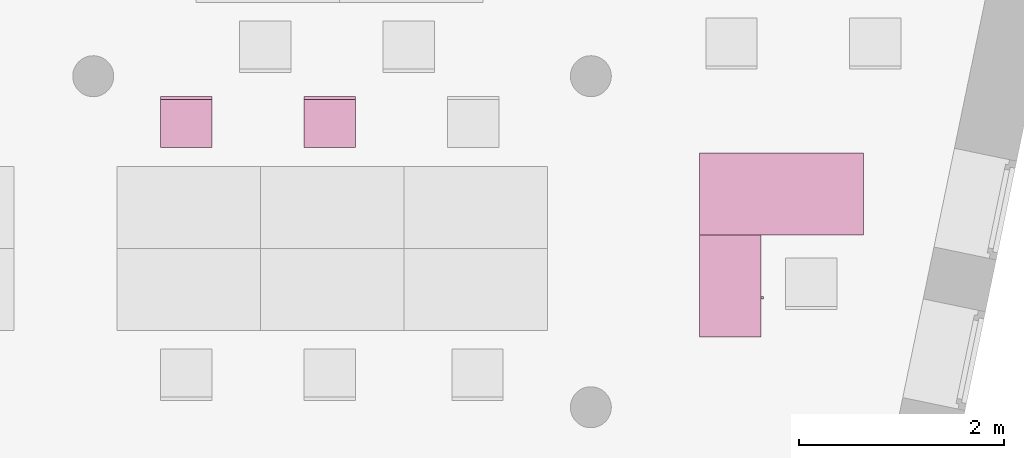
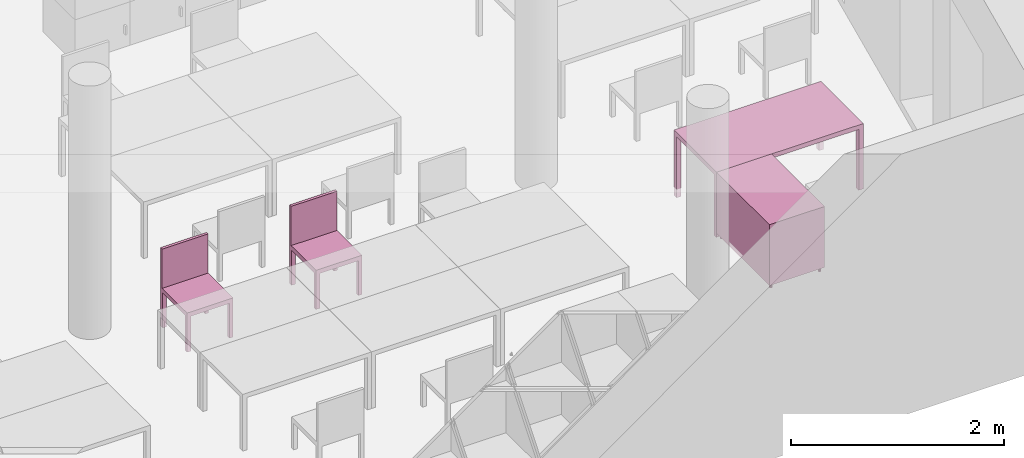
"""IFC4 building model written with IfcOpenShell, lengths in metres."""

import ifcopenshell
import ifcopenshell.guid

model = None  # the IFC model being written
_history = None  # IfcOwnerHistory: only IFC2X3 demands one
_inside = {}  # id of a spatial element -> (the spatial element, [elements in it])
_under = {}  # id of a project, library or spatial element -> (it, [spatial elements below it])
_declared = {}  # id of a project -> (the project, [libraries it declares])
_typed = {}  # id of a type object -> (the type object, [elements of that type])
_made_of = {}  # id of a material, layer set ... -> (it, [elements and type objects made of it])


def new_model(schema):
    """Start an empty IFC model of exactly this schema.

    Asked for "IFC4X3", IfcOpenShell would pick the latest addendum, in which some entities
    have other attributes; the version numbers below select the first issue.
    IFC2X3 requires an IfcOwnerHistory on every rooted entity: one is made here for all.
    """
    global model, _history
    if schema == "IFC4X3":
        model = ifcopenshell.file(schema_version=(4, 3, 0, 0))
    else:
        model = ifcopenshell.file(schema=schema)
    _inside.clear()
    _under.clear()
    _declared.clear()
    _typed.clear()
    _made_of.clear()
    _history = None
    if model.schema == "IFC2X3":
        org = make("IfcOrganization", Name="unknown")
        user = make(
            "IfcPersonAndOrganization",
            ThePerson=make("IfcPerson", FamilyName="unknown"),
            TheOrganization=org,
        )
        app = make(
            "IfcApplication",
            ApplicationDeveloper=org,
            Version="unknown",
            ApplicationFullName="unknown",
            ApplicationIdentifier="unknown",
        )
        _history = make(
            "IfcOwnerHistory",
            OwningUser=user,
            OwningApplication=app,
            ChangeAction="ADDED",
            CreationDate=0,
        )
    return model


def make(cls, **values):
    """One entity of the class cls with the attributes given. An attribute that is None is left unset."""
    return model.create_entity(
        cls, **{name: value for name, value in values.items() if value is not None}
    )


def entity(cls, *values):
    """Any entity or typed value of the class cls, its attributes in the order of the schema. None: left unset."""
    e = model.create_entity(cls)
    for i, value in enumerate(values):
        if value is not None:
            e[i] = value
    return e


def rooted(cls, **values):
    """An entity with a GlobalId (a new one), such as an element, a storey or a relation."""
    return make(cls, GlobalId=ifcopenshell.guid.new(), OwnerHistory=_history, **values)


def si_unit(unit_type, name, prefix=None):
    """IfcSIUnit, for example si_unit("LENGTHUNIT", "METRE", prefix="MILLI")."""
    return make("IfcSIUnit", UnitType=unit_type, Prefix=prefix, Name=name)


def converted_unit(unit_type, name, factor, base, dimensions=None, offset=None):
    """IfcConversionBasedUnit, such as the inch: factor (a typed value) times the base unit."""
    return make(
        "IfcConversionBasedUnit"
        if offset is None
        else "IfcConversionBasedUnitWithOffset",
        ConversionOffset=offset,
        Dimensions=None
        if dimensions is None
        else entity("IfcDimensionalExponents", *dimensions),
        UnitType=unit_type,
        Name=name,
        ConversionFactor=make(
            "IfcMeasureWithUnit", ValueComponent=factor, UnitComponent=base
        ),
    )


def derived_unit(unit_type, elements):
    """IfcDerivedUnit: a product of units, each with its exponent."""
    return make(
        "IfcDerivedUnit",
        Elements=[
            make("IfcDerivedUnitElement", Unit=unit, Exponent=power)
            for unit, power in elements
        ],
        UnitType=unit_type,
    )


def assignment(units):
    """IfcUnitAssignment: the units of a project."""
    return None if units is None else make("IfcUnitAssignment", Units=units)


def point(xyz):
    """IfcCartesianPoint."""
    return None if xyz is None else make("IfcCartesianPoint", Coordinates=xyz)


def direction(xyz):
    """IfcDirection."""
    return None if xyz is None else make("IfcDirection", DirectionRatios=xyz)


def frame(location, z_axis=None, x_axis=None):
    """IfcAxis2Placement3D, a coordinate frame: its origin and axes. An axis left out is left unset."""
    return make(
        "IfcAxis2Placement3D",
        Location=point(location),
        Axis=direction(z_axis),
        RefDirection=direction(x_axis),
    )


def origin():
    """The frame at (0, 0, 0) with its axes left unset."""
    return frame((0.0, 0.0, 0.0))


def place(relative_to, where):
    """IfcLocalPlacement: puts the frame where relative to a parent placement (None: the world)."""
    return make(
        "IfcLocalPlacement", PlacementRelTo=relative_to, RelativePlacement=where
    )


def context(
    kind, dimensions, precision=None, world=None, true_north=None, identifier=None
):
    """IfcGeometricRepresentationContext, for example the 3D "Model" context."""
    return make(
        "IfcGeometricRepresentationContext",
        ContextIdentifier=identifier,
        ContextType=kind,
        CoordinateSpaceDimension=dimensions,
        Precision=precision,
        WorldCoordinateSystem=world,
        TrueNorth=true_north,
    )


def subcontext(parent, identifier, kind, view, scale=None):
    """IfcGeometricRepresentationSubContext, for example "Body" below "Model"."""
    return make(
        "IfcGeometricRepresentationSubContext",
        ContextIdentifier=identifier,
        ContextType=kind,
        ParentContext=parent,
        TargetScale=scale,
        TargetView=view,
    )


def project(units=None, contexts=None):
    """IfcProject with its units and contexts."""
    return rooted(
        "IfcProject",
        Name="project",
        RepresentationContexts=contexts,
        UnitsInContext=assignment(units),
    )


def spatial(cls, under=None, at=None, **own):
    """A site, building, storey or space (cls), placed at a placement, below another one or the project."""
    s = rooted(cls, ObjectPlacement=at, **own)
    if under is not None:
        _under.setdefault(under.id(), (under, []))[1].append(s)
    return s


def faces_of(points, faces, orient=None, outer=None):
    """IfcFace entities. A face is a list of loops; a loop is a list of indices into points, from 0.

    orient and outer hold one flag for each loop. By default every Orientation is true, the
    first loop of a face is its IfcFaceOuterBound and the others are IfcFaceBound.
    """
    made = []
    for i, loops in enumerate(faces):
        bounds = []
        for j, loop in enumerate(loops):
            is_outer = j == 0 if outer is None else outer[i][j]
            bounds.append(
                make(
                    "IfcFaceOuterBound" if is_outer else "IfcFaceBound",
                    Bound=make("IfcPolyLoop", Polygon=[points[k] for k in loop]),
                    Orientation=True if orient is None else orient[i][j],
                )
            )
        made.append(make("IfcFace", Bounds=bounds))
    return made


def faceted_brep(points, faces, orient=None, outer=None, voids=None):
    """IfcFacetedBrep: a solid bounded by flat faces; with voids (closed shells), ...WithVoids."""
    shared = [point(p) for p in points]
    hull = make("IfcClosedShell", CfsFaces=faces_of(shared, faces, orient, outer))
    if voids is None:
        return make("IfcFacetedBrep", Outer=hull)
    return make(
        "IfcFacetedBrepWithVoids",
        Outer=hull,
        Voids=[
            make(cls, CfsFaces=faces_of(shared, fs, o, b)) for cls, fs, o, b in voids
        ],
    )


def shape(context_of_items, identifier, shape_type, items):
    """IfcShapeRepresentation: the items that make up one representation, for example the "Body"."""
    return make(
        "IfcShapeRepresentation",
        ContextOfItems=context_of_items,
        RepresentationIdentifier=identifier,
        RepresentationType=shape_type,
        Items=items,
    )


def made_of(thing, what):
    """Note that an element or type object is made of a material, layer set ...; save() writes the relation."""
    if what is not None:
        _made_of.setdefault(what.id(), (what, []))[1].append(thing)
    return thing


def element(
    cls,
    number,
    at=None,
    inside=None,
    cuts=None,
    type_object=None,
    material=None,
    context=None,
    identifier="Body",
    shape_type=None,
    held_by="IfcProductDefinitionShape",
    body=None,
    shapes=None,
    **own,
):
    """One element of the class cls, such as IfcWall. Its Tag is "e" and its number.

    at: its placement. inside: the storey or other place that contains it. cuts: it is an
    opening in that element (IfcRelVoidsElement). A single representation is given by context,
    identifier, shape_type and body (its items); several are given by shapes. held_by: the class
    of the entity that holds the representations. save() writes the other relations.
    """
    e = rooted(cls, Tag="e%d" % number, ObjectPlacement=at, **own)
    if body is not None:
        shapes = [shape(context, identifier, shape_type, body)]
    if shapes is not None:
        e.Representation = make(held_by, Representations=shapes)
    if inside is not None:
        _inside.setdefault(inside.id(), (inside, []))[1].append(e)
    if cuts is not None:
        rooted(
            "IfcRelVoidsElement", RelatingBuildingElement=cuts, RelatedOpeningElement=e
        )
    if type_object is not None:
        _typed.setdefault(type_object.id(), (type_object, []))[1].append(e)
    return made_of(e, material)


def aggregate(whole, parts):
    """IfcRelAggregates: a whole, such as a stair, and the parts it consists of."""
    return rooted("IfcRelAggregates", RelatingObject=whole, RelatedObjects=parts)


def save(model, path):
    """Write the relations noted so far, then the file.

    IfcRelAggregates (storeys below a building ...), IfcRelContainedInSpatialStructure (elements
    in a storey), IfcRelDefinesByType, IfcRelAssociatesMaterial and IfcRelDeclares: one each for
    every whole, place, type object, material and project.
    """
    for whole, parts in _under.values():
        aggregate(whole, parts)
    for where, things in _inside.values():
        rooted(
            "IfcRelContainedInSpatialStructure",
            RelatedElements=things,
            RelatingStructure=where,
        )
    for kind, things in _typed.values():
        rooted("IfcRelDefinesByType", RelatedObjects=things, RelatingType=kind)
    for what, things in _made_of.values():
        rooted("IfcRelAssociatesMaterial", RelatedObjects=things, RelatingMaterial=what)
    for by, libraries in _declared.values():
        rooted("IfcRelDeclares", RelatingContext=by, RelatedDefinitions=libraries)
    model.write(path)


model = new_model("IFC4")

# Units and contexts
model_context = context("Model", 3, precision=1e-05, world=origin())
body_context = subcontext(model_context, "Body", "Model", "MODEL_VIEW")
ifc_project = project(units=[si_unit("LENGTHUNIT", "METRE"), si_unit("AREAUNIT", "SQUARE_METRE"), si_unit("VOLUMEUNIT", "CUBIC_METRE"), si_unit("MASSUNIT", "GRAM", prefix="KILO"), converted_unit("PLANEANGLEUNIT", "DEGREE", entity("IfcPlaneAngleMeasure", 0.0174532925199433), si_unit("PLANEANGLEUNIT", "RADIAN"), dimensions=[0, 0, 0, 0, 0, 0, 0]), derived_unit("THERMALTRANSMITTANCEUNIT", [(si_unit("POWERUNIT", "WATT"), 1), (si_unit("THERMODYNAMICTEMPERATUREUNIT", "KELVIN"), -1), (si_unit("LENGTHUNIT", "METRE"), -2)]), derived_unit("VOLUMETRICFLOWRATEUNIT", [(si_unit("LENGTHUNIT", "METRE"), 3), (converted_unit("TIMEUNIT", "hour", entity("IfcTimeMeasure", 3600.0), si_unit("TIMEUNIT", "SECOND"), dimensions=[0, 0, 1, 0, 0, 0, 0]), -1), (si_unit("LENGTHUNIT", "METRE"), -1)])], contexts=[model_context])

# Building, storeys
building_placement = place(None, origin())
building = spatial("IfcBuilding", under=ifc_project, at=building_placement, Name="HABITATGE PLURIFAMILIAR", CompositionType="ELEMENT")
storey_1_placement = place(building_placement, frame((0.0, 0.0, 15.28)))
storey_1 = spatial("IfcBuildingStorey", under=building, at=storey_1_placement, Name="PLANTA QUARTA", CompositionType="ELEMENT", Elevation=15.28)
storey_2_placement = place(storey_1_placement, frame((0.0, 0.0, 12.27)))
storey_2 = spatial("IfcBuildingStorey", under=storey_1, at=storey_2_placement, Name="NOU", CompositionType="PARTIAL")

# Furniture
furniture_1_placement = place(storey_2_placement, frame((422.05439455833, 16.2495676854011, -12.3699999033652)))
element("IfcFurniture", 1, at=furniture_1_placement, inside=storey_2, Name="Taula 160X80_P4", context=body_context, shape_type="Brep", body=[
    faceted_brep([(1.546945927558, 0.750069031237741, 0.0), (1.596945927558, 0.750069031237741, 0.0), (1.596945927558, 0.800069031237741, 0.0), (1.546945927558, 0.800069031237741, 0.0), (1.546945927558, 0.800069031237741, 0.7), (1.596945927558, 0.800069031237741, 0.7), (1.596945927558, 0.750069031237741, 0.7), (1.546945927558, 0.750069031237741, 0.7)], [[[0, 1, 2, 3]], [[4, 5, 6, 7]], [[3, 4, 7, 0]], [[2, 5, 4, 3]], [[1, 6, 5, 2]], [[0, 7, 6, 1]]], orient=[[False], [False], [False], [False], [False], [False]]),
    faceted_brep([(1.546945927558, 0.0, 0.0), (1.596945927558, 0.0, 0.0), (1.596945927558, 0.05, 0.0), (1.546945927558, 0.05, 0.0), (1.546945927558, 0.05, 0.7), (1.596945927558, 0.05, 0.7), (1.596945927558, 0.0, 0.7), (1.546945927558, 0.0, 0.7)], [[[0, 1, 2, 3]], [[4, 5, 6, 7]], [[3, 4, 7, 0]], [[2, 5, 4, 3]], [[1, 6, 5, 2]], [[0, 7, 6, 1]]], orient=[[False], [False], [False], [False], [False], [False]]),
    faceted_brep([(0.0, 0.0, 0.7), (1.596945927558, 0.0, 0.7), (1.596945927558, 0.800069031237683, 0.7), (0.0, 0.800069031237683, 0.7), (0.0, 0.800069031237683, 0.75), (1.596945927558, 0.800069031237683, 0.75), (1.596945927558, 0.0, 0.75), (0.0, 0.0, 0.75)], [[[0, 1, 2, 3]], [[4, 5, 6, 7]], [[3, 4, 7, 0]], [[2, 5, 4, 3]], [[1, 6, 5, 2]], [[0, 7, 6, 1]]], orient=[[False], [False], [False], [False], [False], [False]]),
    faceted_brep([(0.0, 0.750069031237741, 0.0), (0.05, 0.750069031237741, 0.0), (0.05, 0.800069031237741, 0.0), (0.0, 0.800069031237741, 0.0), (0.0, 0.800069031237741, 0.7), (0.05, 0.800069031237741, 0.7), (0.05, 0.750069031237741, 0.7), (0.0, 0.750069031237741, 0.7)], [[[0, 1, 2, 3]], [[4, 5, 6, 7]], [[3, 4, 7, 0]], [[2, 5, 4, 3]], [[1, 6, 5, 2]], [[0, 7, 6, 1]]], orient=[[False], [False], [False], [False], [False], [False]]),
    faceted_brep([(0.0, 0.0, 0.0), (0.05, 0.0, 0.0), (0.05, 0.05, 0.0), (0.0, 0.05, 0.0), (0.0, 0.05, 0.7), (0.05, 0.05, 0.7), (0.05, 0.0, 0.7), (0.0, 0.0, 0.7)], [[[0, 1, 2, 3]], [[4, 5, 6, 7]], [[3, 4, 7, 0]], [[2, 5, 4, 3]], [[1, 6, 5, 2]], [[0, 7, 6, 1]]], orient=[[False], [False], [False], [False], [False], [False]]),
])
furniture_2_placement = place(storey_2_placement, frame((422.05439455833, 15.2535937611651, -12.3699999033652)))
element("IfcFurniture", 2, at=furniture_2_placement, inside=storey_2, Name="Taula 100X60_P4", context=body_context, shape_type="Brep", body=[
    faceted_brep([(0.0, 1.00000000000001, 0.05), (0.6, 1.00000000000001, 0.05), (0.6, 1.00000000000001, 0.07), (0.0, 1.00000000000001, 0.07), (0.6, 0.0, 0.05), (0.6, 0.0, 0.07), (0.0, 0.0, 0.05), (0.0, 0.0, 0.07)], [[[0, 1, 2, 3]], [[1, 4, 5, 2]], [[4, 6, 7, 5]], [[6, 0, 3, 7]], [[0, 6, 4, 1]], [[3, 2, 5, 7]]], orient=[[False], [False], [False], [False], [False], [False]]),
    faceted_brep([(0.58, 1.00000000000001, 0.35), (0.0, 1.00000000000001, 0.35), (0.0, 0.0, 0.35), (0.58, 0.0, 0.35), (0.0, 1.00000000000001, 0.37), (0.58, 1.00000000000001, 0.37), (0.58, 0.0, 0.37), (0.0, 0.0, 0.37)], [[[0, 1, 2, 3]], [[4, 5, 6, 7]], [[1, 0, 5, 4]], [[2, 1, 4, 7]], [[3, 2, 7, 6]], [[0, 3, 6, 5]]], orient=[[False], [False], [False], [False], [False], [False]]),
    faceted_brep([(0.58, 0.490000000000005, 0.75), (0.58, 0.490000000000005, 0.05), (0.6, 0.490000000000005, 0.05), (0.6, 0.490000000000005, 0.75), (0.58, 0.0, 0.05), (0.6, 0.0, 0.05), (0.58, 0.0, 0.75), (0.6, 0.0, 0.75)], [[[0, 1, 2, 3]], [[1, 4, 5, 2]], [[4, 6, 7, 5]], [[6, 0, 3, 7]], [[0, 6, 4, 1]], [[3, 2, 5, 7]]], orient=[[False], [False], [False], [False], [False], [False]]),
    faceted_brep([(0.0, 0.980000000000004, 0.75), (0.0, 0.980000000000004, 0.0499999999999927), (0.0, 1.0, 0.0499999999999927), (0.0, 1.0, 0.75), (0.6, 0.980000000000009, 0.05), (0.6, 1.00000000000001, 0.05), (0.6, 0.980000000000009, 0.75), (0.6, 1.00000000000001, 0.75)], [[[0, 1, 2, 3]], [[1, 4, 5, 2]], [[4, 6, 7, 5]], [[6, 0, 3, 7]], [[0, 6, 4, 1]], [[3, 2, 5, 7]]], orient=[[False], [False], [False], [False], [False], [False]]),
    faceted_brep([(0.0, 0.470000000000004, 0.75), (0.0, 0.470000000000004, 0.0499999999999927), (0.0, 0.490000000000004, 0.0499999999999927), (0.0, 0.490000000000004, 0.75), (0.6, 0.470000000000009, 0.05), (0.6, 0.490000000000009, 0.05), (0.6, 0.470000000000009, 0.75), (0.6, 0.490000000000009, 0.75)], [[[0, 1, 2, 3]], [[1, 4, 5, 2]], [[4, 6, 7, 5]], [[6, 0, 3, 7]], [[0, 6, 4, 1]], [[3, 2, 5, 7]]], orient=[[False], [False], [False], [False], [False], [False]]),
    faceted_brep([(0.0, 0.47, 0.750000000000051), (0.0, 0.47, 0.0499999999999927), (0.0, 0.490000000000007, 0.0499999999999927), (0.0, 0.490000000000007, 0.750000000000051), (0.579999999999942, 0.469999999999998, 0.0499999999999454), (0.579999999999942, 0.490000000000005, 0.0499999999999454), (0.58, 0.469999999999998, 0.750000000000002), (0.58, 0.490000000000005, 0.750000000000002)], [[[0, 1, 2, 3]], [[1, 4, 5, 2]], [[4, 6, 7, 5]], [[6, 0, 3, 7]], [[0, 6, 4, 1]], [[3, 2, 5, 7]]], orient=[[False], [False], [False], [False], [False], [False]]),
    faceted_brep([(0.0, 0.0, 0.75), (0.0, 0.0, 0.0499999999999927), (0.0, 0.0200000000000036, 0.0499999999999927), (0.0, 0.0200000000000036, 0.75), (0.6, 0.0, 0.05), (0.6, 0.0200000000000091, 0.05), (0.6, 0.0, 0.75), (0.6, 0.0200000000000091, 0.75)], [[[0, 1, 2, 3]], [[1, 4, 5, 2]], [[4, 6, 7, 5]], [[6, 0, 3, 7]], [[0, 6, 4, 1]], [[3, 2, 5, 7]]], orient=[[False], [False], [False], [False], [False], [False]]),
    faceted_brep([(0.0, 1.00000000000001, 0.73), (0.6, 1.00000000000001, 0.73), (0.6, 1.00000000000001, 0.75), (0.0, 1.00000000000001, 0.75), (0.6, 0.0, 0.73), (0.6, 0.0, 0.75), (0.0, 0.0, 0.73), (0.0, 0.0, 0.75)], [[[0, 1, 2, 3]], [[1, 4, 5, 2]], [[4, 6, 7, 5]], [[6, 0, 3, 7]], [[0, 6, 4, 1]], [[3, 2, 5, 7]]], orient=[[False], [False], [False], [False], [False], [False]]),
    faceted_brep([(0.0, 0.980000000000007, 0.75), (0.0, 0.980000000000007, 0.05), (0.02, 0.980000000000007, 0.05), (0.02, 0.980000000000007, 0.75), (0.0, 0.0, 0.05), (0.02, 0.0, 0.05), (0.0, 0.0, 0.75), (0.02, 0.0, 0.75)], [[[0, 1, 2, 3]], [[1, 4, 5, 2]], [[4, 6, 7, 5]], [[6, 0, 3, 7]], [[0, 6, 4, 1]], [[3, 2, 5, 7]]], orient=[[False], [False], [False], [False], [False], [False]]),
    faceted_brep([(0.6, 0.374420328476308, 0.35), (0.62, 0.374420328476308, 0.35), (0.62, 0.394420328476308, 0.35), (0.6, 0.394420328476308, 0.35), (0.6, 0.394420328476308, 0.45), (0.62, 0.394420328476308, 0.45), (0.62, 0.374420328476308, 0.45), (0.6, 0.374420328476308, 0.45)], [[[0, 1, 2, 3]], [[4, 5, 6, 7]], [[3, 4, 7, 0]], [[2, 5, 4, 3]], [[1, 6, 5, 2]], [[0, 7, 6, 1]]], orient=[[False], [False], [False], [False], [False], [False]]),
    faceted_brep([(0.0361788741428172, 0.950063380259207, 0.0), (0.038772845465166, 0.950290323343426, 0.0), (0.0412880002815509, 0.950964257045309, 0.0), (0.0436479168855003, 0.95206470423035, 0.0), (0.0457808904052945, 0.953558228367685, 0.0), (0.0476221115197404, 0.955399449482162, 0.0), (0.0491156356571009, 0.957532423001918, 0.0), (0.0502160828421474, 0.959892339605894, 0.0), (0.0508900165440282, 0.962407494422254, 0.0), (0.0511169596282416, 0.96500146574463, 0.0), (0.0508900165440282, 0.967595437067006, 0.0), (0.0502160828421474, 0.970110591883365, 0.0), (0.0491156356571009, 0.972470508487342, 0.0), (0.0476221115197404, 0.974603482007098, 0.0), (0.0457808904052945, 0.976444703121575, 0.0), (0.0436479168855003, 0.97793822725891, 0.0), (0.0412880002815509, 0.979038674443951, 0.0), (0.038772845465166, 0.979712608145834, 0.0), (0.0361788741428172, 0.979939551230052, 0.0), (0.0335849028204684, 0.979712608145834, 0.0), (0.0310697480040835, 0.979038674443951, 0.0), (0.0287098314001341, 0.97793822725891, 0.0), (0.02657685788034, 0.976444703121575, 0.0), (0.024735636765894, 0.974603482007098, 0.0), (0.0232421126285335, 0.972470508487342, 0.0), (0.022141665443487, 0.970110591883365, 0.0), (0.0214677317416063, 0.967595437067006, 0.0), (0.0212407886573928, 0.96500146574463, 0.0), (0.0214677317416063, 0.962407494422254, 0.0), (0.022141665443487, 0.959892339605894, 0.0), (0.0232421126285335, 0.957532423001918, 0.0), (0.024735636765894, 0.955399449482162, 0.0), (0.02657685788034, 0.953558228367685, 0.0), (0.0287098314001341, 0.95206470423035, 0.0), (0.0310697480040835, 0.950964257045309, 0.0), (0.0335849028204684, 0.950290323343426, 0.0), (0.0361788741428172, 0.950063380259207, 0.05), (0.0335849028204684, 0.950290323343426, 0.05), (0.0310697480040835, 0.950964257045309, 0.05), (0.0287098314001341, 0.95206470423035, 0.05), (0.02657685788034, 0.953558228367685, 0.05), (0.024735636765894, 0.955399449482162, 0.05), (0.0232421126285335, 0.957532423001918, 0.05), (0.022141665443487, 0.959892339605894, 0.05), (0.0214677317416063, 0.962407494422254, 0.05), (0.0212407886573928, 0.96500146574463, 0.05), (0.0214677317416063, 0.967595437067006, 0.05), (0.022141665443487, 0.970110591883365, 0.05), (0.0232421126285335, 0.972470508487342, 0.05), (0.024735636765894, 0.974603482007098, 0.05), (0.02657685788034, 0.976444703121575, 0.05), (0.0287098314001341, 0.97793822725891, 0.05), (0.0310697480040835, 0.979038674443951, 0.05), (0.0335849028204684, 0.979712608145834, 0.05), (0.0361788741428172, 0.979939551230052, 0.05), (0.038772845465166, 0.979712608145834, 0.05), (0.0412880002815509, 0.979038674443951, 0.05), (0.0436479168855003, 0.97793822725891, 0.05), (0.0457808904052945, 0.976444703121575, 0.05), (0.0476221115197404, 0.974603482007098, 0.05), (0.0491156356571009, 0.972470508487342, 0.05), (0.0502160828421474, 0.970110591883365, 0.05), (0.0508900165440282, 0.967595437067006, 0.05), (0.0511169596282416, 0.96500146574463, 0.05), (0.0508900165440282, 0.962407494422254, 0.05), (0.0502160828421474, 0.959892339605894, 0.05), (0.0491156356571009, 0.957532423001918, 0.05), (0.0476221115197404, 0.955399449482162, 0.05), (0.0457808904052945, 0.953558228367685, 0.05), (0.0436479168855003, 0.95206470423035, 0.05), (0.0412880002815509, 0.950964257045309, 0.05), (0.038772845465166, 0.950290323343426, 0.05)], [[[0, 1, 2, 3, 4, 5, 6, 7, 8, 9, 10, 11, 12, 13, 14, 15, 16, 17, 18, 19, 20, 21, 22, 23, 24, 25, 26, 27, 28, 29, 30, 31, 32, 33, 34, 35]], [[36, 37, 38, 39, 40, 41, 42, 43, 44, 45, 46, 47, 48, 49, 50, 51, 52, 53, 54, 55, 56, 57, 58, 59, 60, 61, 62, 63, 64, 65, 66, 67, 68, 69, 70, 71]], [[1, 0, 36, 71]], [[2, 1, 71, 70]], [[3, 2, 70, 69]], [[4, 3, 69, 68]], [[5, 4, 68, 67]], [[6, 5, 67, 66]], [[7, 6, 66, 65]], [[8, 7, 65, 64]], [[9, 8, 64, 63]], [[10, 9, 63, 62]], [[11, 10, 62, 61]], [[12, 11, 61, 60]], [[13, 12, 60, 59]], [[14, 13, 59, 58]], [[15, 14, 58, 57]], [[16, 15, 57, 56]], [[17, 16, 56, 55]], [[18, 17, 55, 54]], [[19, 18, 54, 53]], [[20, 19, 53, 52]], [[21, 20, 52, 51]], [[22, 21, 51, 50]], [[23, 22, 50, 49]], [[24, 23, 49, 48]], [[25, 24, 48, 47]], [[26, 25, 47, 46]], [[27, 26, 46, 45]], [[28, 27, 45, 44]], [[29, 28, 44, 43]], [[30, 29, 43, 42]], [[31, 30, 42, 41]], [[32, 31, 41, 40]], [[33, 32, 40, 39]], [[34, 33, 39, 38]], [[35, 34, 38, 37]], [[0, 35, 37, 36]]], orient=[[False], [False], [False], [False], [False], [False], [False], [False], [False], [False], [False], [False], [False], [False], [False], [False], [False], [False], [False], [False], [False], [False], [False], [False], [False], [False], [False], [False], [False], [False], [False], [False], [False], [False], [False], [False], [False], [False]]),
    faceted_brep([(0.566178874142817, 0.950063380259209, 0.0), (0.568772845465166, 0.950290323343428, 0.0), (0.571288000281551, 0.950964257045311, 0.0), (0.5736479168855, 0.952064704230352, 0.0), (0.575780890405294, 0.953558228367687, 0.0), (0.57762211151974, 0.955399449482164, 0.0), (0.579115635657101, 0.95753242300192, 0.0), (0.580216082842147, 0.959892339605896, 0.0), (0.580890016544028, 0.962407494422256, 0.0), (0.581116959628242, 0.965001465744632, 0.0), (0.580890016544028, 0.967595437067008, 0.0), (0.580216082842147, 0.970110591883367, 0.0), (0.579115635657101, 0.972470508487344, 0.0), (0.57762211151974, 0.9746034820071, 0.0), (0.575780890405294, 0.976444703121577, 0.0), (0.5736479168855, 0.977938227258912, 0.0), (0.571288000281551, 0.979038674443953, 0.0), (0.568772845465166, 0.979712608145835, 0.0), (0.566178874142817, 0.979939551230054, 0.0), (0.563584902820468, 0.979712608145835, 0.0), (0.561069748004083, 0.979038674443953, 0.0), (0.558709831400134, 0.977938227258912, 0.0), (0.55657685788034, 0.976444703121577, 0.0), (0.554735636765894, 0.9746034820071, 0.0), (0.553242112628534, 0.972470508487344, 0.0), (0.552141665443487, 0.970110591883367, 0.0), (0.551467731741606, 0.967595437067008, 0.0), (0.551240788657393, 0.965001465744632, 0.0), (0.551467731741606, 0.962407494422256, 0.0), (0.552141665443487, 0.959892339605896, 0.0), (0.553242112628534, 0.95753242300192, 0.0), (0.554735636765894, 0.955399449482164, 0.0), (0.55657685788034, 0.953558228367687, 0.0), (0.558709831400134, 0.952064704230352, 0.0), (0.561069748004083, 0.950964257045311, 0.0), (0.563584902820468, 0.950290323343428, 0.0), (0.566178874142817, 0.950063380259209, 0.05), (0.563584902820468, 0.950290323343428, 0.05), (0.561069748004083, 0.950964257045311, 0.05), (0.558709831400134, 0.952064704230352, 0.05), (0.55657685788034, 0.953558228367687, 0.05), (0.554735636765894, 0.955399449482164, 0.05), (0.553242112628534, 0.95753242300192, 0.05), (0.552141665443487, 0.959892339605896, 0.05), (0.551467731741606, 0.962407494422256, 0.05), (0.551240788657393, 0.965001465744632, 0.05), (0.551467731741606, 0.967595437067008, 0.05), (0.552141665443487, 0.970110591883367, 0.05), (0.553242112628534, 0.972470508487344, 0.05), (0.554735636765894, 0.9746034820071, 0.05), (0.55657685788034, 0.976444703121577, 0.05), (0.558709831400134, 0.977938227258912, 0.05), (0.561069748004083, 0.979038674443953, 0.05), (0.563584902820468, 0.979712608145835, 0.05), (0.566178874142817, 0.979939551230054, 0.05), (0.568772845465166, 0.979712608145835, 0.05), (0.571288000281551, 0.979038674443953, 0.05), (0.5736479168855, 0.977938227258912, 0.05), (0.575780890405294, 0.976444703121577, 0.05), (0.57762211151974, 0.9746034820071, 0.05), (0.579115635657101, 0.972470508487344, 0.05), (0.580216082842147, 0.970110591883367, 0.05), (0.580890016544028, 0.967595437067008, 0.05), (0.581116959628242, 0.965001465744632, 0.05), (0.580890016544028, 0.962407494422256, 0.05), (0.580216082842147, 0.959892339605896, 0.05), (0.579115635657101, 0.95753242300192, 0.05), (0.57762211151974, 0.955399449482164, 0.05), (0.575780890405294, 0.953558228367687, 0.05), (0.5736479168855, 0.952064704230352, 0.05), (0.571288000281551, 0.950964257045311, 0.05), (0.568772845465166, 0.950290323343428, 0.05)], [[[0, 1, 2, 3, 4, 5, 6, 7, 8, 9, 10, 11, 12, 13, 14, 15, 16, 17, 18, 19, 20, 21, 22, 23, 24, 25, 26, 27, 28, 29, 30, 31, 32, 33, 34, 35]], [[36, 37, 38, 39, 40, 41, 42, 43, 44, 45, 46, 47, 48, 49, 50, 51, 52, 53, 54, 55, 56, 57, 58, 59, 60, 61, 62, 63, 64, 65, 66, 67, 68, 69, 70, 71]], [[1, 0, 36, 71]], [[2, 1, 71, 70]], [[3, 2, 70, 69]], [[4, 3, 69, 68]], [[5, 4, 68, 67]], [[6, 5, 67, 66]], [[7, 6, 66, 65]], [[8, 7, 65, 64]], [[9, 8, 64, 63]], [[10, 9, 63, 62]], [[11, 10, 62, 61]], [[12, 11, 61, 60]], [[13, 12, 60, 59]], [[14, 13, 59, 58]], [[15, 14, 58, 57]], [[16, 15, 57, 56]], [[17, 16, 56, 55]], [[18, 17, 55, 54]], [[19, 18, 54, 53]], [[20, 19, 53, 52]], [[21, 20, 52, 51]], [[22, 21, 51, 50]], [[23, 22, 50, 49]], [[24, 23, 49, 48]], [[25, 24, 48, 47]], [[26, 25, 47, 46]], [[27, 26, 46, 45]], [[28, 27, 45, 44]], [[29, 28, 44, 43]], [[30, 29, 43, 42]], [[31, 30, 42, 41]], [[32, 31, 41, 40]], [[33, 32, 40, 39]], [[34, 33, 39, 38]], [[35, 34, 38, 37]], [[0, 35, 37, 36]]], orient=[[False], [False], [False], [False], [False], [False], [False], [False], [False], [False], [False], [False], [False], [False], [False], [False], [False], [False], [False], [False], [False], [False], [False], [False], [False], [False], [False], [False], [False], [False], [False], [False], [False], [False], [False], [False], [False], [False]]),
    faceted_brep([(0.564999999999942, 0.0200170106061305, 0.0), (0.567593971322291, 0.0202439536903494, 0.0), (0.570109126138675, 0.0209178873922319, 0.0), (0.572469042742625, 0.022018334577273, 0.0), (0.574602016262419, 0.023511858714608, 0.0), (0.576443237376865, 0.0253530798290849, 0.0), (0.577936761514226, 0.0274860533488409, 0.0), (0.579037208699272, 0.0298459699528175, 0.0), (0.579711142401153, 0.032361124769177, 0.0), (0.579938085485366, 0.0349550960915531, 0.0), (0.579711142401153, 0.0375490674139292, 0.0), (0.579037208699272, 0.0400642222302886, 0.0), (0.577936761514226, 0.0424241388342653, 0.0), (0.576443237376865, 0.0445571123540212, 0.0), (0.574602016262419, 0.0463983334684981, 0.0), (0.572469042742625, 0.0478918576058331, 0.0), (0.570109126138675, 0.0489923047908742, 0.0), (0.567593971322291, 0.0496662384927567, 0.0), (0.564999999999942, 0.0498931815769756, 0.0), (0.562406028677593, 0.0496662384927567, 0.0), (0.559890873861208, 0.0489923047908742, 0.0), (0.557530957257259, 0.0478918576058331, 0.0), (0.555397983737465, 0.0463983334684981, 0.0), (0.553556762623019, 0.0445571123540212, 0.0), (0.552063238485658, 0.0424241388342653, 0.0), (0.550962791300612, 0.0400642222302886, 0.0), (0.550288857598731, 0.0375490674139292, 0.0), (0.550061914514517, 0.0349550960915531, 0.0), (0.550288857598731, 0.032361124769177, 0.0), (0.550962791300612, 0.0298459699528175, 0.0), (0.552063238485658, 0.0274860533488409, 0.0), (0.553556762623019, 0.0253530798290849, 0.0), (0.555397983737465, 0.023511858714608, 0.0), (0.557530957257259, 0.022018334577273, 0.0), (0.559890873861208, 0.0209178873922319, 0.0), (0.562406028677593, 0.0202439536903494, 0.0), (0.564999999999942, 0.0200170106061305, 0.05), (0.562406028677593, 0.0202439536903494, 0.05), (0.559890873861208, 0.0209178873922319, 0.05), (0.557530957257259, 0.022018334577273, 0.05), (0.555397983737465, 0.023511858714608, 0.05), (0.553556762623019, 0.0253530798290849, 0.05), (0.552063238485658, 0.0274860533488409, 0.05), (0.550962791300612, 0.0298459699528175, 0.05), (0.550288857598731, 0.032361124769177, 0.05), (0.550061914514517, 0.0349550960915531, 0.05), (0.550288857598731, 0.0375490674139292, 0.05), (0.550962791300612, 0.0400642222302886, 0.05), (0.552063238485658, 0.0424241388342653, 0.05), (0.553556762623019, 0.0445571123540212, 0.05), (0.555397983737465, 0.0463983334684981, 0.05), (0.557530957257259, 0.0478918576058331, 0.05), (0.559890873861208, 0.0489923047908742, 0.05), (0.562406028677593, 0.0496662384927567, 0.05), (0.564999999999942, 0.0498931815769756, 0.05), (0.567593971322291, 0.0496662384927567, 0.05), (0.570109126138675, 0.0489923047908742, 0.05), (0.572469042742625, 0.0478918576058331, 0.05), (0.574602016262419, 0.0463983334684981, 0.05), (0.576443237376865, 0.0445571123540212, 0.05), (0.577936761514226, 0.0424241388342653, 0.05), (0.579037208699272, 0.0400642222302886, 0.05), (0.579711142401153, 0.0375490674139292, 0.05), (0.579938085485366, 0.0349550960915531, 0.05), (0.579711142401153, 0.032361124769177, 0.05), (0.579037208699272, 0.0298459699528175, 0.05), (0.577936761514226, 0.0274860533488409, 0.05), (0.576443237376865, 0.0253530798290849, 0.05), (0.574602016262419, 0.023511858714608, 0.05), (0.572469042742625, 0.022018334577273, 0.05), (0.570109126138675, 0.0209178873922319, 0.05), (0.567593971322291, 0.0202439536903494, 0.05)], [[[0, 1, 2, 3, 4, 5, 6, 7, 8, 9, 10, 11, 12, 13, 14, 15, 16, 17, 18, 19, 20, 21, 22, 23, 24, 25, 26, 27, 28, 29, 30, 31, 32, 33, 34, 35]], [[36, 37, 38, 39, 40, 41, 42, 43, 44, 45, 46, 47, 48, 49, 50, 51, 52, 53, 54, 55, 56, 57, 58, 59, 60, 61, 62, 63, 64, 65, 66, 67, 68, 69, 70, 71]], [[1, 0, 36, 71]], [[2, 1, 71, 70]], [[3, 2, 70, 69]], [[4, 3, 69, 68]], [[5, 4, 68, 67]], [[6, 5, 67, 66]], [[7, 6, 66, 65]], [[8, 7, 65, 64]], [[9, 8, 64, 63]], [[10, 9, 63, 62]], [[11, 10, 62, 61]], [[12, 11, 61, 60]], [[13, 12, 60, 59]], [[14, 13, 59, 58]], [[15, 14, 58, 57]], [[16, 15, 57, 56]], [[17, 16, 56, 55]], [[18, 17, 55, 54]], [[19, 18, 54, 53]], [[20, 19, 53, 52]], [[21, 20, 52, 51]], [[22, 21, 51, 50]], [[23, 22, 50, 49]], [[24, 23, 49, 48]], [[25, 24, 48, 47]], [[26, 25, 47, 46]], [[27, 26, 46, 45]], [[28, 27, 45, 44]], [[29, 28, 44, 43]], [[30, 29, 43, 42]], [[31, 30, 42, 41]], [[32, 31, 41, 40]], [[33, 32, 40, 39]], [[34, 33, 39, 38]], [[35, 34, 38, 37]], [[0, 35, 37, 36]]], orient=[[False], [False], [False], [False], [False], [False], [False], [False], [False], [False], [False], [False], [False], [False], [False], [False], [False], [False], [False], [False], [False], [False], [False], [False], [False], [False], [False], [False], [False], [False], [False], [False], [False], [False], [False], [False], [False], [False]]),
    faceted_brep([(0.0349662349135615, 0.0203520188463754, 0.0), (0.0375602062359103, 0.0205789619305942, 0.0), (0.0400753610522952, 0.0212528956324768, 0.0), (0.0424352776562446, 0.0223533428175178, 0.0), (0.0445682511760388, 0.0238468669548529, 0.0), (0.0464094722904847, 0.0256880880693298, 0.0), (0.0479029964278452, 0.0278210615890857, 0.0), (0.0490034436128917, 0.0301809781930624, 0.0), (0.0496773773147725, 0.0326961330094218, 0.0), (0.0499043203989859, 0.0352901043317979, 0.0), (0.0496773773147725, 0.037884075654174, 0.0), (0.0490034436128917, 0.0403992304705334, 0.0), (0.0479029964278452, 0.0427591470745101, 0.0), (0.0464094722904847, 0.0448921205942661, 0.0), (0.0445682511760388, 0.046733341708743, 0.0), (0.0424352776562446, 0.048226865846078, 0.0), (0.0400753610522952, 0.049327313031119, 0.0), (0.0375602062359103, 0.0500012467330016, 0.0), (0.0349662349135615, 0.0502281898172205, 0.0), (0.0323722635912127, 0.0500012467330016, 0.0), (0.0298571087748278, 0.049327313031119, 0.0), (0.0274971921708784, 0.048226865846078, 0.0), (0.0253642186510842, 0.046733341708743, 0.0), (0.0235229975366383, 0.0448921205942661, 0.0), (0.0220294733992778, 0.0427591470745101, 0.0), (0.0209290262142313, 0.0403992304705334, 0.0), (0.0202550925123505, 0.037884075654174, 0.0), (0.0200281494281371, 0.0352901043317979, 0.0), (0.0202550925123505, 0.0326961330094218, 0.0), (0.0209290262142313, 0.0301809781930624, 0.0), (0.0220294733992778, 0.0278210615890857, 0.0), (0.0235229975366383, 0.0256880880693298, 0.0), (0.0253642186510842, 0.0238468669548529, 0.0), (0.0274971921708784, 0.0223533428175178, 0.0), (0.0298571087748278, 0.0212528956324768, 0.0), (0.0323722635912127, 0.0205789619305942, 0.0), (0.0349662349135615, 0.0203520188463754, 0.05), (0.0323722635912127, 0.0205789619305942, 0.05), (0.0298571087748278, 0.0212528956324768, 0.05), (0.0274971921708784, 0.0223533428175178, 0.05), (0.0253642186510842, 0.0238468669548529, 0.05), (0.0235229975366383, 0.0256880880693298, 0.05), (0.0220294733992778, 0.0278210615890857, 0.05), (0.0209290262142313, 0.0301809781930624, 0.05), (0.0202550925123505, 0.0326961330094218, 0.05), (0.0200281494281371, 0.0352901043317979, 0.05), (0.0202550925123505, 0.037884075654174, 0.05), (0.0209290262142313, 0.0403992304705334, 0.05), (0.0220294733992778, 0.0427591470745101, 0.05), (0.0235229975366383, 0.0448921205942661, 0.05), (0.0253642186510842, 0.046733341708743, 0.05), (0.0274971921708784, 0.048226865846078, 0.05), (0.0298571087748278, 0.049327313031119, 0.05), (0.0323722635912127, 0.0500012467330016, 0.05), (0.0349662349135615, 0.0502281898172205, 0.05), (0.0375602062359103, 0.0500012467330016, 0.05), (0.0400753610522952, 0.049327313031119, 0.05), (0.0424352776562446, 0.048226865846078, 0.05), (0.0445682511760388, 0.046733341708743, 0.05), (0.0464094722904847, 0.0448921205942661, 0.05), (0.0479029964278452, 0.0427591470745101, 0.05), (0.0490034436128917, 0.0403992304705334, 0.05), (0.0496773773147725, 0.037884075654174, 0.05), (0.0499043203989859, 0.0352901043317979, 0.05), (0.0496773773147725, 0.0326961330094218, 0.05), (0.0490034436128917, 0.0301809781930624, 0.05), (0.0479029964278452, 0.0278210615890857, 0.05), (0.0464094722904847, 0.0256880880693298, 0.05), (0.0445682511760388, 0.0238468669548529, 0.05), (0.0424352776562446, 0.0223533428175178, 0.05), (0.0400753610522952, 0.0212528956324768, 0.05), (0.0375602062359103, 0.0205789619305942, 0.05)], [[[0, 1, 2, 3, 4, 5, 6, 7, 8, 9, 10, 11, 12, 13, 14, 15, 16, 17, 18, 19, 20, 21, 22, 23, 24, 25, 26, 27, 28, 29, 30, 31, 32, 33, 34, 35]], [[36, 37, 38, 39, 40, 41, 42, 43, 44, 45, 46, 47, 48, 49, 50, 51, 52, 53, 54, 55, 56, 57, 58, 59, 60, 61, 62, 63, 64, 65, 66, 67, 68, 69, 70, 71]], [[1, 0, 36, 71]], [[2, 1, 71, 70]], [[3, 2, 70, 69]], [[4, 3, 69, 68]], [[5, 4, 68, 67]], [[6, 5, 67, 66]], [[7, 6, 66, 65]], [[8, 7, 65, 64]], [[9, 8, 64, 63]], [[10, 9, 63, 62]], [[11, 10, 62, 61]], [[12, 11, 61, 60]], [[13, 12, 60, 59]], [[14, 13, 59, 58]], [[15, 14, 58, 57]], [[16, 15, 57, 56]], [[17, 16, 56, 55]], [[18, 17, 55, 54]], [[19, 18, 54, 53]], [[20, 19, 53, 52]], [[21, 20, 52, 51]], [[22, 21, 51, 50]], [[23, 22, 50, 49]], [[24, 23, 49, 48]], [[25, 24, 48, 47]], [[26, 25, 47, 46]], [[27, 26, 46, 45]], [[28, 27, 45, 44]], [[29, 28, 44, 43]], [[30, 29, 43, 42]], [[31, 30, 42, 41]], [[32, 31, 41, 40]], [[33, 32, 40, 39]], [[34, 33, 39, 38]], [[35, 34, 38, 37]], [[0, 35, 37, 36]]], orient=[[False], [False], [False], [False], [False], [False], [False], [False], [False], [False], [False], [False], [False], [False], [False], [False], [False], [False], [False], [False], [False], [False], [False], [False], [False], [False], [False], [False], [False], [False], [False], [False], [False], [False], [False], [False], [False], [False]]),
])
furniture_3_placement = place(storey_2_placement, frame((418.195236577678, 17.1018108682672, -12.3640610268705)))
element("IfcFurniture", 3, at=furniture_3_placement, inside=storey_2, Name="Cadira d'Oficina_P4", context=body_context, shape_type="Brep", body=[
    faceted_brep([(0.5, 0.0, 0.399999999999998), (0.5, 0.500000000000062, 0.399999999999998), (0.0, 0.5, 0.399999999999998), (0.0, 0.0, 0.399999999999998), (0.5, 0.500000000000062, 0.449999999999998), (0.5, 0.0, 0.449999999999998), (0.0, 0.0, 0.449999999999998), (0.0, 0.5, 0.449999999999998)], [[[0, 1, 2, 3]], [[4, 5, 6, 7]], [[1, 0, 5, 4]], [[2, 1, 4, 7]], [[3, 2, 7, 6]], [[0, 3, 6, 5]]], orient=[[False], [False], [False], [False], [False], [False]]),
    faceted_brep([(0.0, 0.46, 0.0), (0.04, 0.46, 0.0), (0.04, 0.5, 0.0), (0.0, 0.5, 0.0), (0.04, 0.46, 0.4), (0.0, 0.46, 0.4), (0.0, 0.5, 0.4), (0.04, 0.5, 0.4)], [[[0, 1, 2, 3]], [[4, 5, 6, 7]], [[1, 0, 5, 4]], [[2, 1, 4, 7]], [[3, 2, 7, 6]], [[0, 3, 6, 5]]], orient=[[False], [False], [False], [False], [False], [False]]),
    faceted_brep([(0.0, 0.0, 0.0), (0.04, 0.0, 0.0), (0.04, 0.04, 0.0), (0.0, 0.04, 0.0), (0.04, 0.0, 0.4), (0.0, 0.0, 0.4), (0.0, 0.04, 0.4), (0.04, 0.04, 0.4)], [[[0, 1, 2, 3]], [[4, 5, 6, 7]], [[1, 0, 5, 4]], [[2, 1, 4, 7]], [[3, 2, 7, 6]], [[0, 3, 6, 5]]], orient=[[False], [False], [False], [False], [False], [False]]),
    faceted_brep([(0.46, 0.460000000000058, 0.0), (0.5, 0.460000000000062, 0.0), (0.5, 0.500000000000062, 0.0), (0.46, 0.500000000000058, 0.0), (0.5, 0.460000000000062, 0.4), (0.46, 0.460000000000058, 0.4), (0.46, 0.500000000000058, 0.4), (0.5, 0.500000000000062, 0.4)], [[[0, 1, 2, 3]], [[4, 5, 6, 7]], [[1, 0, 5, 4]], [[2, 1, 4, 7]], [[3, 2, 7, 6]], [[0, 3, 6, 5]]], orient=[[False], [False], [False], [False], [False], [False]]),
    faceted_brep([(0.46, 0.0, 0.0), (0.5, 0.0, 0.0), (0.5, 0.0400000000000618, 0.0), (0.46, 0.0400000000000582, 0.0), (0.5, 0.0, 0.4), (0.46, 0.0, 0.4), (0.46, 0.0400000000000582, 0.4), (0.5, 0.0400000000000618, 0.4)], [[[0, 1, 2, 3]], [[4, 5, 6, 7]], [[1, 0, 5, 4]], [[2, 1, 4, 7]], [[3, 2, 7, 6]], [[0, 3, 6, 5]]], orient=[[False], [False], [False], [False], [False], [False]]),
    faceted_brep([(0.0, 0.47, 0.45), (0.5, 0.470000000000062, 0.45), (0.5, 0.500000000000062, 0.45), (0.0, 0.5, 0.45), (0.5, 0.470000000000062, 0.9), (0.0, 0.47, 0.9), (0.0, 0.5, 0.9), (0.5, 0.500000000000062, 0.9)], [[[0, 1, 2, 3]], [[4, 5, 6, 7]], [[1, 0, 5, 4]], [[2, 1, 4, 7]], [[3, 2, 7, 6]], [[0, 3, 6, 5]]], orient=[[False], [False], [False], [False], [False], [False]]),
])
furniture_4_placement = place(storey_2_placement, frame((416.794057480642, 17.1018108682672, -12.3640610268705)))
element("IfcFurniture", 4, at=furniture_4_placement, inside=storey_2, Name="Cadira d'Oficina_P4", context=body_context, shape_type="Brep", body=[
    faceted_brep([(0.5, 0.0, 0.399999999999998), (0.5, 0.500000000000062, 0.399999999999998), (0.0, 0.5, 0.399999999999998), (0.0, 0.0, 0.399999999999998), (0.5, 0.500000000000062, 0.449999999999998), (0.5, 0.0, 0.449999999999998), (0.0, 0.0, 0.449999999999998), (0.0, 0.5, 0.449999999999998)], [[[0, 1, 2, 3]], [[4, 5, 6, 7]], [[1, 0, 5, 4]], [[2, 1, 4, 7]], [[3, 2, 7, 6]], [[0, 3, 6, 5]]], orient=[[False], [False], [False], [False], [False], [False]]),
    faceted_brep([(0.0, 0.46, 0.0), (0.04, 0.46, 0.0), (0.04, 0.5, 0.0), (0.0, 0.5, 0.0), (0.04, 0.46, 0.4), (0.0, 0.46, 0.4), (0.0, 0.5, 0.4), (0.04, 0.5, 0.4)], [[[0, 1, 2, 3]], [[4, 5, 6, 7]], [[1, 0, 5, 4]], [[2, 1, 4, 7]], [[3, 2, 7, 6]], [[0, 3, 6, 5]]], orient=[[False], [False], [False], [False], [False], [False]]),
    faceted_brep([(0.0, 0.0, 0.0), (0.04, 0.0, 0.0), (0.04, 0.04, 0.0), (0.0, 0.04, 0.0), (0.04, 0.0, 0.4), (0.0, 0.0, 0.4), (0.0, 0.04, 0.4), (0.04, 0.04, 0.4)], [[[0, 1, 2, 3]], [[4, 5, 6, 7]], [[1, 0, 5, 4]], [[2, 1, 4, 7]], [[3, 2, 7, 6]], [[0, 3, 6, 5]]], orient=[[False], [False], [False], [False], [False], [False]]),
    faceted_brep([(0.46, 0.460000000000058, 0.0), (0.5, 0.460000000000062, 0.0), (0.5, 0.500000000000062, 0.0), (0.46, 0.500000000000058, 0.0), (0.5, 0.460000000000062, 0.4), (0.46, 0.460000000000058, 0.4), (0.46, 0.500000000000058, 0.4), (0.5, 0.500000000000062, 0.4)], [[[0, 1, 2, 3]], [[4, 5, 6, 7]], [[1, 0, 5, 4]], [[2, 1, 4, 7]], [[3, 2, 7, 6]], [[0, 3, 6, 5]]], orient=[[False], [False], [False], [False], [False], [False]]),
    faceted_brep([(0.46, 0.0, 0.0), (0.5, 0.0, 0.0), (0.5, 0.0400000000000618, 0.0), (0.46, 0.0400000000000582, 0.0), (0.5, 0.0, 0.4), (0.46, 0.0, 0.4), (0.46, 0.0400000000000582, 0.4), (0.5, 0.0400000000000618, 0.4)], [[[0, 1, 2, 3]], [[4, 5, 6, 7]], [[1, 0, 5, 4]], [[2, 1, 4, 7]], [[3, 2, 7, 6]], [[0, 3, 6, 5]]], orient=[[False], [False], [False], [False], [False], [False]]),
    faceted_brep([(0.0, 0.47, 0.45), (0.5, 0.470000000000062, 0.45), (0.5, 0.500000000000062, 0.45), (0.0, 0.5, 0.45), (0.5, 0.470000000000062, 0.9), (0.0, 0.47, 0.9), (0.0, 0.5, 0.9), (0.5, 0.500000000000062, 0.9)], [[[0, 1, 2, 3]], [[4, 5, 6, 7]], [[1, 0, 5, 4]], [[2, 1, 4, 7]], [[3, 2, 7, 6]], [[0, 3, 6, 5]]], orient=[[False], [False], [False], [False], [False], [False]]),
])

save(model, "model.ifc")
